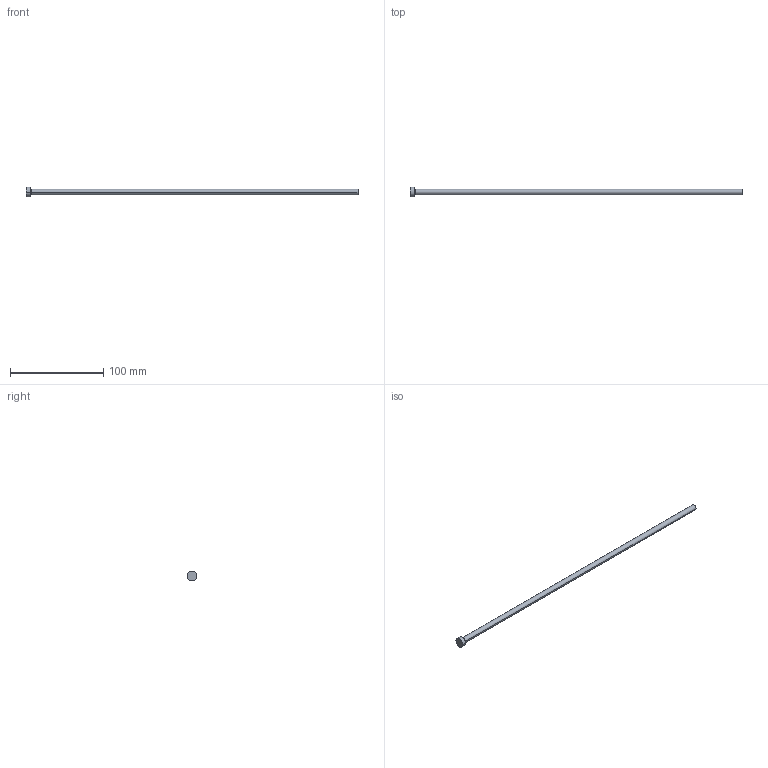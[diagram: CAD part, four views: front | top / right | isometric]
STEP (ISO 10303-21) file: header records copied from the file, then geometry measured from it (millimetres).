
FILE_DESCRIPTION (( 'STEP AP214' ), '1' );
FILE_NAME ('P16-14.STEP', '2020-03-11T18:36:24', ( '' ), ( '' ), 'SwSTEP 2.0', 'SolidWorks 2018', '' );
FILE_SCHEMA (( 'AUTOMOTIVE_DESIGN' ));
Length unit declared in the file: inch
Products named in the file (1): P16-14
Bounding box: 355.6 x 10.32 x 10.32 mm (x, y, z)
Volume: 10140.7 mm3; surface area: 6865 mm2
Topology: 1 solids, 1 shells, 13 faces, 24 edges, 14 vertices
Faces by surface type: cone 4, cylinder 4, plane 3, torus 2
Entity records: 366 total; most frequent: DIRECTION 68, CARTESIAN_POINT 52, ORIENTED_EDGE 48, AXIS2_PLACEMENT_3D 30, EDGE_CURVE 24, CIRCLE 16, EDGE_LOOP 14, VERTEX_POINT 14
